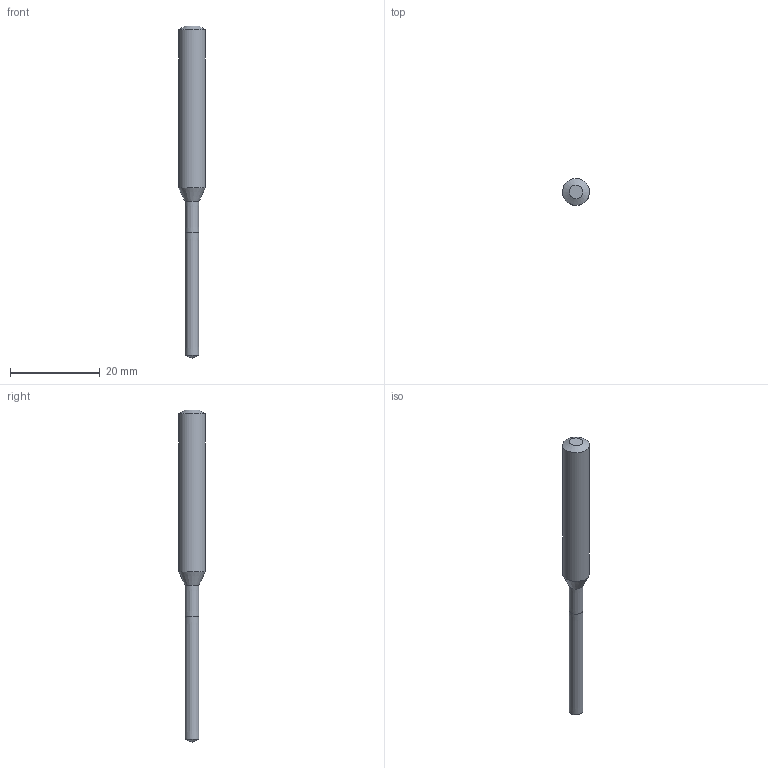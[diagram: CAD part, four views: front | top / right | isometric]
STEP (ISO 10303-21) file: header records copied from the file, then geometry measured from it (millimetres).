
FILE_DESCRIPTION(/* description */ (''),/* implementation_level */ '2;1');
FILE_NAME(/* name */ 'CAD_6618615_MOD_003_003_FR.stp',/* time_stamp */ '2014-06-16T16:26:41+02:00',/* author */ ('VR - Julian Pauli'),/* organization */ ('Walter AG'),/* preprocessor_version */ 'ST-DEVELOPER v11',/* originating_system */ 'SIEMENS UGS NX 6.0',/* authorisation */ '');
FILE_SCHEMA (('AUTOMOTIVE_DESIGN { 1 0 10303 214 1 1 1 1 }'));
Length unit declared in the file: millimetre
Products named in the file (1): DC150-6618615_simple
Bounding box: 6 x 6 x 74 mm (x, y, z)
Volume: 1320.3 mm3; surface area: 1100.2 mm2
Topology: 2 solids, 2 shells, 9 faces, 18 edges, 14 vertices
Faces by surface type: cone 5, plane 3, cylinder 1
Full cylindrical faces by diameter (mm): 6 x1
Entity records: 216 total; most frequent: DIRECTION 36, CARTESIAN_POINT 27, AXIS2_PLACEMENT_3D 17, EDGE_LOOP 14, ORIENTED_EDGE 14, FACE_BOUND 12, ADVANCED_FACE 9, VERTEX_POINT 8
